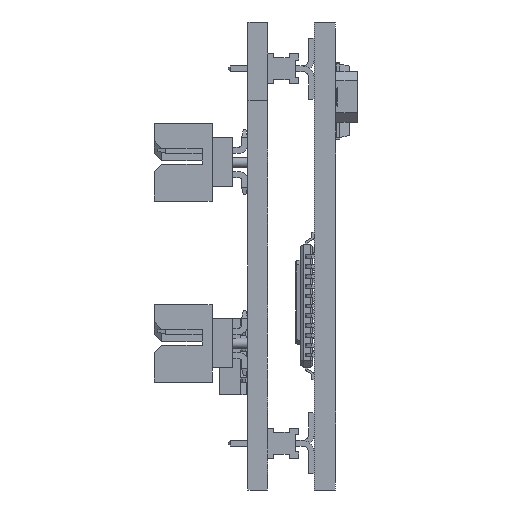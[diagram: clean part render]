
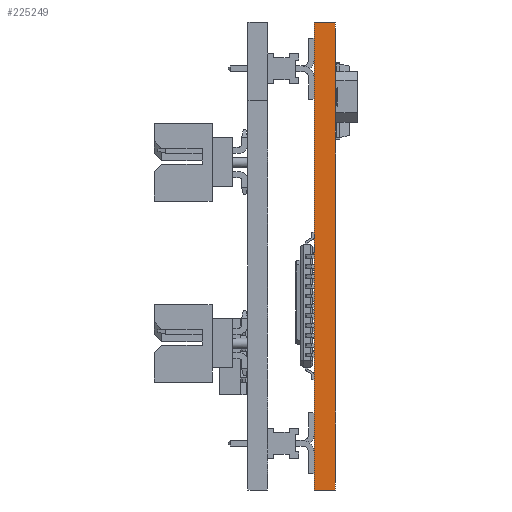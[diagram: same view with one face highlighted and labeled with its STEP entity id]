
A CAD part, left-side view. The second image highlights one B-rep face of the part: STEP entity #225249.
In plain terms, the highlighted planar face has unit normal (-1, 0, 0).
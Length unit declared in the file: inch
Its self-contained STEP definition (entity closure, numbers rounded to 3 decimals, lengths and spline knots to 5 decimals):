
#144177=DIRECTION('',(0.,0.,-1.));
#144178=VECTOR('',#144177,1.5);
#144179=CARTESIAN_POINT('',(0.,-0.2804,0.));
#144180=LINE('',#144179,#144178);
#155657=DIRECTION('',(0.,0.,-1.));
#155658=VECTOR('',#155657,1.5);
#155659=CARTESIAN_POINT('',(0.,-0.2124,0.));
#155660=LINE('',#155659,#155658);
#155664=DIRECTION('',(0.,-1.,0.));
#155665=VECTOR('',#155664,0.068);
#155666=CARTESIAN_POINT('',(0.,-0.2124,-1.5));
#155667=LINE('',#155666,#155665);
#166297=DIRECTION('',(0.,-1.,0.));
#166298=VECTOR('',#166297,0.068);
#166299=CARTESIAN_POINT('',(0.,-0.2124,0.));
#166300=LINE('',#166299,#166298);
#215850=CARTESIAN_POINT('',(0.,-0.2124,0.));
#215852=VERTEX_POINT('',#215850);
#219858=CARTESIAN_POINT('',(0.,-0.2124,-1.5));
#219859=CARTESIAN_POINT('',(0.,-0.2804,-1.5));
#219860=VERTEX_POINT('',#219858);
#219861=VERTEX_POINT('',#219859);
#219934=CARTESIAN_POINT('',(0.,-0.2804,0.));
#219935=VERTEX_POINT('',#219934);
#225235=CARTESIAN_POINT('',(0.,-0.2804,-1.5));
#225236=DIRECTION('',(-1.,0.,0.));
#225237=DIRECTION('',(0.,0.,1.));
#225238=AXIS2_PLACEMENT_3D('',#225235,#225236,#225237);
#225239=PLANE('',#225238);
#225241=ORIENTED_EDGE('',*,*,#225240,.F.);
#225243=ORIENTED_EDGE('',*,*,#225242,.T.);
#225244=ORIENTED_EDGE('',*,*,#221294,.T.);
#225246=ORIENTED_EDGE('',*,*,#225245,.F.);
#225247=EDGE_LOOP('',(#225241,#225243,#225244,#225246));
#225248=FACE_OUTER_BOUND('',#225247,.F.);
#221294=EDGE_CURVE('',#219935,#219861,#144180,.T.);
#225240=EDGE_CURVE('',#215852,#219860,#155660,.T.);
#225242=EDGE_CURVE('',#215852,#219935,#166300,.T.);
#225245=EDGE_CURVE('',#219860,#219861,#155667,.T.);
#225249=ADVANCED_FACE('',(#225248),#225239,.T.);
